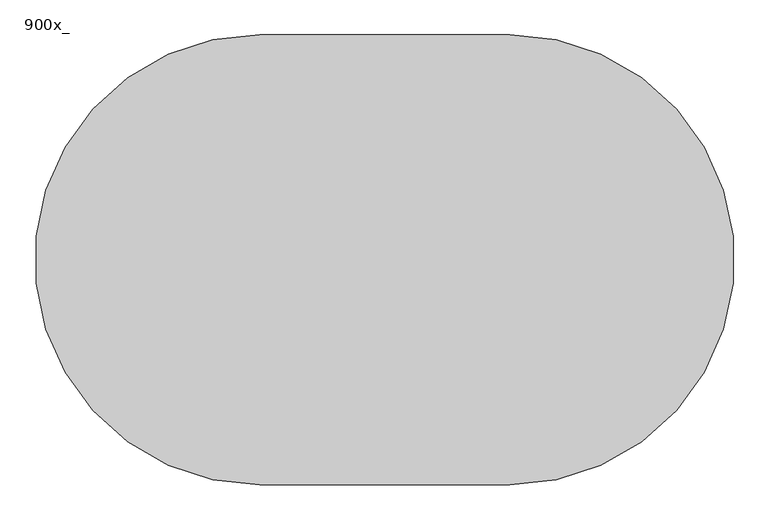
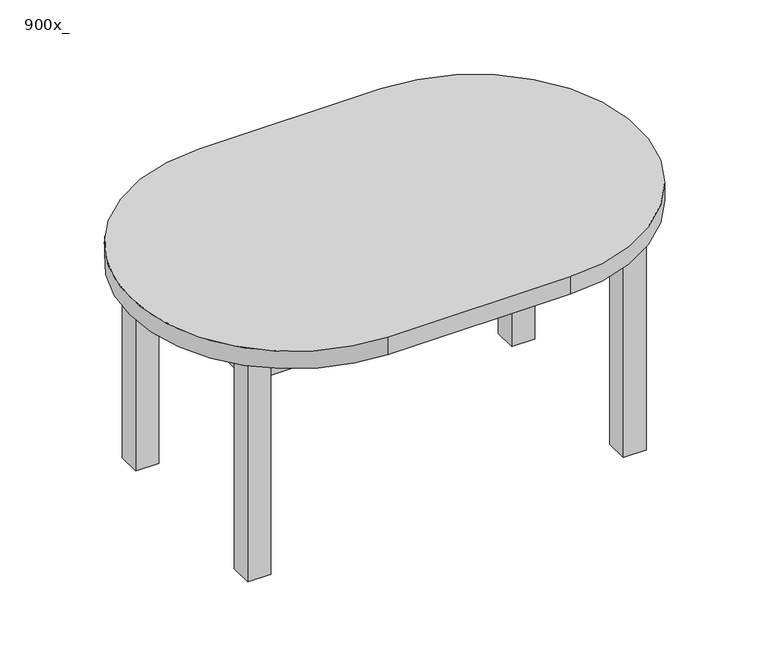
"""IFC4 building model written with IfcOpenShell, lengths in millimetres: furniture geometry, Fu_кухонный стол_овальный_LEG : 900x_."""

from ifc_helpers import new_model, si_unit, point, frame, frame_2d, origin, origin_with_axes, place, context, project, spatial, polyline, circle_curve, trimmed, segment, composite_curve, outline, extrude, source, transform, mapped, element, save


def furniture_900x_6df32213(model_context):
    return source(origin(), model_context, "Body", "SweptSolid", [
        extrude(outline(polyline([(184.1, 259.5), (184.1, 234.1), (-784.1, 234.1), (-784.1, 259.5), (184.1, 259.5)])), frame((0.0, 0.0, 547.6), z_axis=(0.0, 0.0, 1.0), x_axis=(1.0, 0.0, 0.0)), (0.0, 0.0, 1.0), 101.6),
        extrude(outline(polyline([(184.1, -259.5), (-784.1, -259.5), (-784.1, -234.1), (184.1, -234.1), (184.1, -259.5)])), frame((0.0, 0.0, 547.6), z_axis=(0.0, 0.0, 1.0), x_axis=(1.0, 0.0, 0.0)), (0.0, 0.0, 1.0), 101.6),
        extrude(outline(polyline([(-796.8, -234.1), (-822.2, -234.1), (-822.2, 234.1), (-796.8, 234.1), (-796.8, -234.1)])), frame((0.0, 0.0, 547.6), z_axis=(0.0, 0.0, 1.0), x_axis=(1.0, 0.0, 0.0)), (0.0, 0.0, 1.0), 101.6),
        extrude(outline(polyline([(196.8, -234.1), (196.8, 234.1), (222.2, 234.1), (222.2, -234.1), (196.8, -234.1)])), frame((0.0, 0.0, 547.6), z_axis=(0.0, 0.0, 1.0), x_axis=(1.0, 0.0, 0.0)), (0.0, 0.0, 1.0), 101.6),
        extrude(outline(polyline([(-784.1, 297.6), (-784.1, 234.1), (-847.6, 234.1), (-847.6, 297.6), (-784.1, 297.6)])), origin_with_axes(), (0.0, 0.0, 1.0), 649.2),
        extrude(outline(polyline([(184.1, 297.6), (247.6, 297.6), (247.6, 234.1), (184.1, 234.1), (184.1, 297.6)])), origin_with_axes(), (0.0, 0.0, 1.0), 649.2),
        extrude(outline(polyline([(-784.1, -297.6), (-847.6, -297.6), (-847.6, -234.1), (-784.1, -234.1), (-784.1, -297.6)])), origin_with_axes(), (0.0, 0.0, 1.0), 649.2),
        extrude(outline(polyline([(184.1, -297.6), (184.1, -234.1), (247.6, -234.1), (247.6, -297.6), (184.1, -297.6)])), origin_with_axes(), (0.0, 0.0, 1.0), 649.2),
        extrude(outline(composite_curve([segment(trimmed(circle_curve(frame_2d((-550.0, 0.0)), 450.0), [point((-550.0, -450.0))], [point((-550.0, 450.0))], False, "CARTESIAN"), True, "CONTINUOUS"), segment(polyline([(-550.0, 450.0), (-50.0, 450.0)]), True, "CONTINUOUS"), segment(trimmed(circle_curve(frame_2d((-50.0, 0.0)), 450.0), [point((-50.0, 450.0))], [point((-50.0, -450.0))], False, "CARTESIAN"), True, "CONTINUOUS"), segment(polyline([(-50.0, -450.0), (-550.0, -450.0)]), True, "CONTINUOUS")], self_intersect=False)), frame((0.0, 0.0, 649.2), z_axis=(0.0, 0.0, 1.0), x_axis=(1.0, 0.0, 0.0)), (0.0, 0.0, 1.0), 50.8),
    ])


if __name__ == "__main__":
    model = new_model("IFC4")
    model_context = context("Model", 3, world=origin())
    ifc_project = project(units=[si_unit("LENGTHUNIT", "METRE", prefix="MILLI")], contexts=[model_context])
    site = spatial("IfcSite", under=ifc_project)
    building = spatial("IfcBuilding", under=site)
    placement = place(None, origin())
    furniture_900x_shape = furniture_900x_6df32213(model_context)
    element("IfcFurniture", 1, ObjectType="Fu_кухонный стол_овальный_LEG : 900x_", at=placement, inside=building, context=model_context, shape_type="MappedRepresentation", body=[
        mapped(furniture_900x_shape, transform((0.0, 0.0, 0.0), x_axis=(1.0, 0.0, 0.0), y_axis=(0.0, 1.0, 0.0), z_axis=(0.0, 0.0, 1.0))),
    ])
    save(model, "model.ifc")
